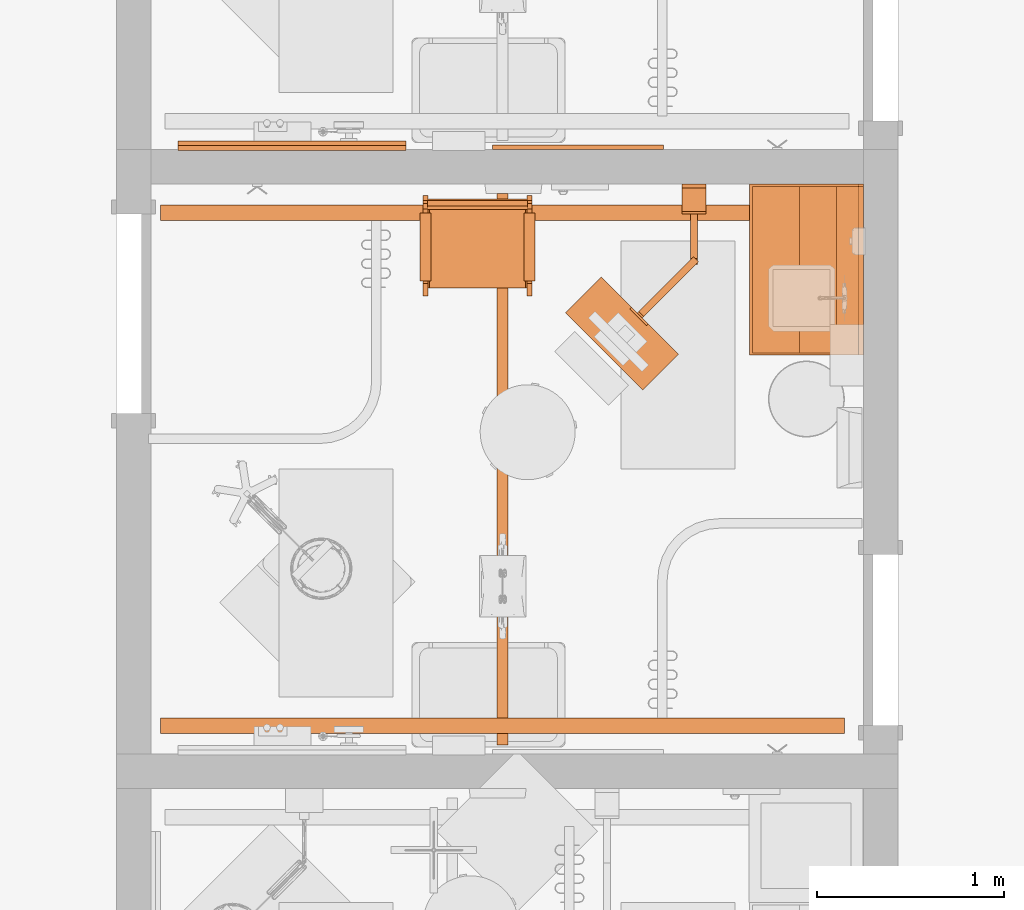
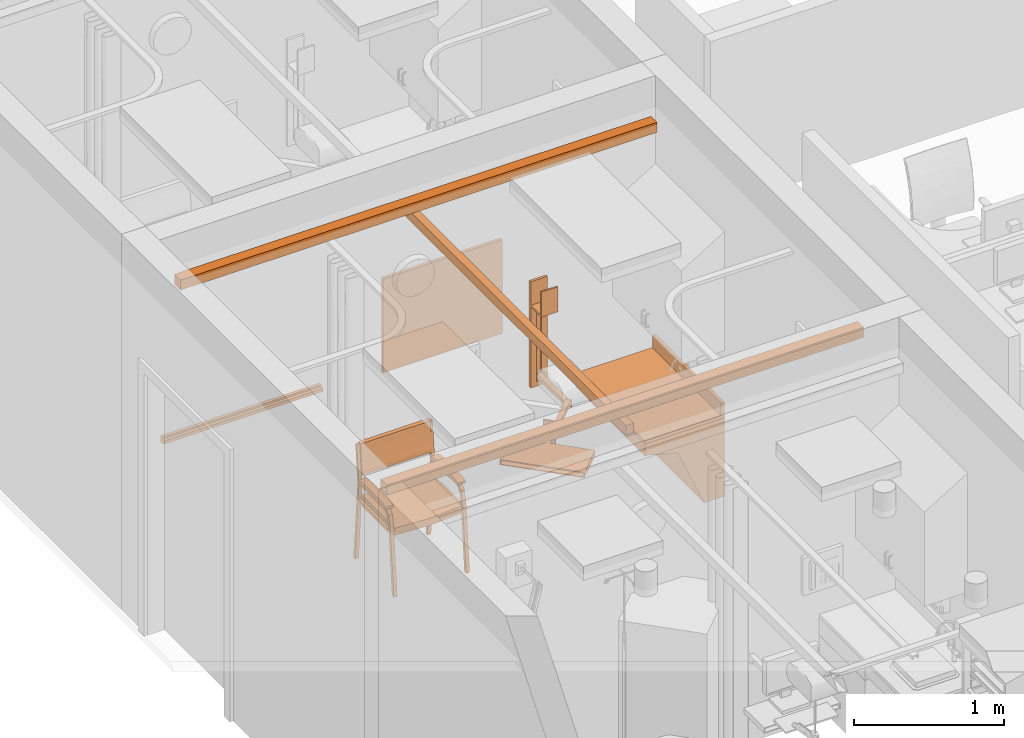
# One storey, part 23 of 142: 7 proxies.
"""IFC2X3 building model written with IfcOpenShell, lengths in feet."""

from ifc_helpers import new_model, entity, si_unit, converted_unit, derived_unit, direction, frame, frame_2d, origin, origin_2d_with_axis, place, context, subcontext, project, spatial, polyline, circle_curve, parameter, trimmed, segment, composite_curve, rectangle, circle, outline, extrude, source, transform, mapped, type_object, type_shapes, element, save


model = new_model("IFC2X3")

# Units and contexts
model_context = context("Model", 3, precision=0.0001, world=origin(), true_north=direction((6.12303176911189e-17, 1.0)))
body_context = subcontext(model_context, "Body", "Model", "MODEL_VIEW")
ifc_project = project(units=[converted_unit("LENGTHUNIT", "FOOT", entity("IfcRatioMeasure", 0.3048), si_unit("LENGTHUNIT", "METRE"), dimensions=[1, 0, 0, 0, 0, 0, 0]), converted_unit("AREAUNIT", "SQUARE FOOT", entity("IfcRatioMeasure", 0.09290304), si_unit("AREAUNIT", "SQUARE_METRE"), dimensions=[2, 0, 0, 0, 0, 0, 0]), converted_unit("VOLUMEUNIT", "CUBIC FOOT", entity("IfcRatioMeasure", 0.028316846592), si_unit("VOLUMEUNIT", "CUBIC_METRE"), dimensions=[3, 0, 0, 0, 0, 0, 0]), converted_unit("PLANEANGLEUNIT", "DEGREE", entity("IfcRatioMeasure", 0.0174532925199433), si_unit("PLANEANGLEUNIT", "RADIAN"), dimensions=[0, 0, 0, 0, 0, 0, 0]), si_unit("MASSUNIT", "GRAM", prefix="KILO"), derived_unit("MASSDENSITYUNIT", [(si_unit("MASSUNIT", "GRAM", prefix="KILO"), 1), (si_unit("LENGTHUNIT", "METRE"), -3)]), si_unit("TIMEUNIT", "SECOND"), si_unit("FREQUENCYUNIT", "HERTZ"), si_unit("THERMODYNAMICTEMPERATUREUNIT", "DEGREE_CELSIUS"), derived_unit("THERMALTRANSMITTANCEUNIT", [(si_unit("MASSUNIT", "GRAM", prefix="KILO"), 1), (si_unit("THERMODYNAMICTEMPERATUREUNIT", "KELVIN"), -1), (si_unit("TIMEUNIT", "SECOND"), -3)]), derived_unit("VOLUMETRICFLOWRATEUNIT", [(si_unit("LENGTHUNIT", "METRE"), 3), (si_unit("TIMEUNIT", "SECOND"), -1)]), si_unit("ELECTRICCURRENTUNIT", "AMPERE"), si_unit("ELECTRICVOLTAGEUNIT", "VOLT"), si_unit("POWERUNIT", "WATT"), si_unit("FORCEUNIT", "NEWTON"), si_unit("ILLUMINANCEUNIT", "LUX"), si_unit("LUMINOUSFLUXUNIT", "LUMEN"), si_unit("LUMINOUSINTENSITYUNIT", "CANDELA"), derived_unit("USERDEFINED", [(si_unit("MASSUNIT", "GRAM", prefix="KILO"), -1), (si_unit("LENGTHUNIT", "METRE"), -2), (si_unit("TIMEUNIT", "SECOND"), 3), (si_unit("LUMINOUSFLUXUNIT", "LUMEN"), 1)]), derived_unit("LINEARVELOCITYUNIT", [(si_unit("LENGTHUNIT", "METRE"), 1), (si_unit("TIMEUNIT", "SECOND"), -1)]), si_unit("PRESSUREUNIT", "PASCAL"), derived_unit("USERDEFINED", [(si_unit("LENGTHUNIT", "METRE"), -2), (si_unit("MASSUNIT", "GRAM", prefix="KILO"), 1), (si_unit("TIMEUNIT", "SECOND"), -2)])], contexts=[model_context])

# Site, building, storey, space
site_placement = place(None, origin())
site = spatial("IfcSite", under=ifc_project, at=site_placement, Name="Default", CompositionType="ELEMENT")
building_placement = place(site_placement, origin())
building = spatial("IfcBuilding", under=site, at=building_placement, Name="OUTPATIENT / PACT CLINIC (Ch. 265)", CompositionType="ELEMENT")
storey_placement = place(building_placement, origin())
storey = spatial("IfcBuildingStorey", under=building, at=storey_placement, Name="LEVEL 1", CompositionType="ELEMENT", Elevation=0.0)
space_1_placement = place(storey_placement, origin())
space_1 = spatial("IfcSpace", under=storey, at=space_1_placement, Name="EXPA01", CompositionType="ELEMENT", InteriorOrExteriorSpace="INTERNAL")

# Proxies
building_element_proxy_type_1 = type_object("IfcBuildingElementProxyType", Name="A1203 Lift System, Overhead, Bariatric", PredefinedType="NOTDEFINED")
shared_shape_1 = source(origin(), body_context, "Body", "SweptSolid", [
    extrude(rectangle(XDim=9.66757011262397, YDim=0.190288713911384, at=frame_2d((0.0, 6.93889390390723e-18), x_axis=(1.0, 0.0))), frame((0.244358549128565, 0.0, 8.63910761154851), z_axis=(0.0, 0.0, 1.0), x_axis=(-1.0, 0.0, 0.0)), (0.0, 0.0, 1.0), 0.249343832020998),
    extrude(rectangle(XDim=11.9998599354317, YDim=0.267060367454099, at=frame_2d((0.0, 4.44089209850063e-16), x_axis=(1.0, 0.0))), frame((4.74481027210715, 0.0, 8.99015748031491), z_axis=(0.0, 0.0, 1.0), x_axis=(0.0, 1.0, 0.0)), (0.0, 0.0, 1.0), 0.265748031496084),
    extrude(rectangle(XDim=11.9998599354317, YDim=0.267060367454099, at=frame_2d((0.0, 4.44089209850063e-16), x_axis=(1.0, 0.0))), frame((-4.25609317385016, 0.0, 8.99015748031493), z_axis=(0.0, 0.0, 1.0), x_axis=(0.0, 1.0, 0.0)), (0.0, 0.0, 1.0), 0.265748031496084),
])
type_shapes(building_element_proxy_type_1, [shared_shape_1])
proxy_1_placement = place(space_1_placement, frame((397.133697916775, -926.686162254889, 0.0), z_axis=(0.0, 0.0, 1.0), x_axis=(0.0, 1.0, 0.0)))
element("IfcBuildingElementProxy", 1, at=proxy_1_placement, inside=space_1, type_object=building_element_proxy_type_1, Name="A1203 Lift System, Overhead, Bariatric (Traverse):A1203 Lift System, Overhead, Bariatric", ObjectType="A1203 Lift System, Overhead, Bariatric", context=body_context, shape_type="MappedRepresentation", body=[
    mapped(shared_shape_1, transform((0.0, 0.0, 0.0), scale=1.0)),
])
building_element_proxy_type_2 = type_object("IfcBuildingElementProxyType", Name="M1803 - Workstation, Computer, Wall Mounted", PredefinedType="NOTDEFINED")
shared_shape_2 = source(origin(), body_context, "Body", "SweptSolid", [
    extrude(circle(Radius=0.104166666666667, at=frame_2d((1.0547118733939e-15, 3.336446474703e-16), x_axis=(1.0, 0.0))), frame((-0.0810226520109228, -1.34888430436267, 0.333333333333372), z_axis=(0.707106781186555, -0.70710678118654, 0.0), x_axis=(0.0, 0.0, 1.0)), (0.0, 0.0, 1.0), 0.125000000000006),
    extrude(outline(composite_curve([segment(polyline([(0.0520833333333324, -0.592708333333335), (0.0520833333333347, 0.644791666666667)]), True, "CONTINUOUS"), segment(polyline([(0.0520833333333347, 0.644791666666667), (-0.0520833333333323, 0.644791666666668)]), True, "CONTINUOUS"), segment(polyline([(-0.0520833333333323, 0.644791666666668), (-0.0520833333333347, -0.696875)]), True, "CONTINUOUS"), segment(trimmed(circle_curve(frame_2d((0.0520833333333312, -0.696875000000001), x_axis=(1.0, 0.0)), 0.104166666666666), [parameter(89.9999999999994)], [parameter(180.0)], True, "PARAMETER"), False, "CONTINUOUS")], self_intersect=False)), frame((-0.0624999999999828, -0.711458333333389, 0.281250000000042), z_axis=(-1.0, 0.0, 0.0), x_axis=(0.0, 0.0, 1.0)), (0.0, 0.0, -1.0), 0.125000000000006),
    extrude(outline(composite_curve([segment(polyline([(0.0520833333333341, -0.651041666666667), (0.0520833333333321, 0.598958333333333)]), True, "CONTINUOUS"), segment(polyline([(0.0520833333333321, 0.598958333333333), (-0.0520833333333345, 0.598958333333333)]), True, "CONTINUOUS"), segment(polyline([(-0.0520833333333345, 0.598958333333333), (-0.0520833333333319, -0.546875)]), True, "CONTINUOUS"), segment(trimmed(circle_curve(frame_2d((-0.0520833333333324, -0.651041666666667), x_axis=(1.0, 0.0)), 0.104166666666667), [parameter(1.01777749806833e-13)], [parameter(90.0000000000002)], True, "PARAMETER"), False, "CONTINUOUS")], self_intersect=False)), frame((-0.452990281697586, -1.89762862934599, 0.385416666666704), z_axis=(0.707106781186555, -0.70710678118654, 0.0), x_axis=(0.0, 0.0, 1.0)), (0.0, 0.0, -1.0), 0.125000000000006),
    extrude(outline(polyline([(-0.0729166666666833, -0.95833333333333), (0.0729166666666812, -0.95833333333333), (0.0729166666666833, 0.95833333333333), (-0.0729166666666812, 0.95833333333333), (-0.0729166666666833, -0.95833333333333)]), holes=[polyline([(-0.05208333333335, -0.937499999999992), (-0.052083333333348, 0.937499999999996), (0.0520833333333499, 0.937499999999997), (0.0520833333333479, -0.937499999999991), (-0.05208333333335, -0.937499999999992)])]), frame((-1.5747857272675, -2.93103572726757, 0.0729166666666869), z_axis=(0.707106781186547, 0.707106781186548, 0.0), x_axis=(0.0, 0.0, -1.0)), (0.0, 0.0, 1.0), 0.883333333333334),
    extrude(rectangle(XDim=0.0666666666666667, YDim=0.416666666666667, at=origin_2d_with_axis()), frame((0.0, -0.0333333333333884, 0.0), z_axis=(0.0, 0.0, 1.0), x_axis=(0.0, 1.0, 0.0)), (0.0, 0.0, 1.0), 0.11949518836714),
    extrude(outline(polyline([(-0.208333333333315, -0.0270833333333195), (-0.0625000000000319, -0.0270833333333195), (-0.0625000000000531, 0.014583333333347), (0.0625000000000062, 0.014583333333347), (0.0625000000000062, -0.0270833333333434), (0.208333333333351, -0.0270833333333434), (0.208333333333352, 0.0395833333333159), (-0.208333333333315, 0.0395833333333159), (-0.208333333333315, -0.0270833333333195)])), frame((0.0, -0.0395833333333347, 0.119495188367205)), (0.0, 0.0, 1.0), 2.0471714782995),
    extrude(outline(polyline([(-0.194444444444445, 0.125), (0.430555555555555, 0.125), (0.430555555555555, 0.166666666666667), (-0.236111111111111, 0.166666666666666), (-0.236111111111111, -0.291666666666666), (-0.194444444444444, -0.291666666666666), (-0.194444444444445, 0.125)])), frame((-0.208333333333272, -0.358333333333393, 2.40277777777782), z_axis=(1.0, 0.0, 0.0), x_axis=(0.0, 0.0, 1.0)), (0.0, 0.0, 1.0), 0.416666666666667),
    extrude(rectangle(XDim=0.0416666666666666, YDim=0.416666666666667, at=frame_2d((4.16333634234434e-17, -5.55111512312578e-17), x_axis=(1.0, 0.0))), frame((-0.964906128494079, -2.3211561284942, 0.503601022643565), z_axis=(0.0, 0.0, 1.0), x_axis=(0.707106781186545, 0.70710678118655, 0.0)), (0.0, 0.0, 1.0), 0.267232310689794),
    extrude(rectangle(XDim=0.125000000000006, YDim=0.0416666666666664, at=frame_2d((-1.94289029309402e-16, 1.16226472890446e-16), x_axis=(1.0, 0.0))), frame((-0.935443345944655, -2.29169334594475, 0.0), z_axis=(0.0, 0.0, 1.0), x_axis=(-0.707106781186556, 0.70710678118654, 0.0)), (0.0, 0.0, 1.0), 0.666666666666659),
    extrude(rectangle(XDim=0.0666666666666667, YDim=0.416666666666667, at=origin_2d_with_axis()), frame((0.0, -0.0333333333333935, 2.16666666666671), z_axis=(0.0, 0.0, 1.0), x_axis=(0.0, 1.0, 0.0)), (0.0, 0.0, 1.0), 0.666666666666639),
])
type_shapes(building_element_proxy_type_2, [shared_shape_2])
proxy_2_placement = place(space_1_placement, frame((400.489351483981, -921.441351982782, 2.83333333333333)))
element("IfcBuildingElementProxy", 2, at=proxy_2_placement, inside=space_1, type_object=building_element_proxy_type_2, Name="M1803 - Workstation, Computer, Wall Mounted1:M1803 - Workstation, Computer, Wall Mounted", ObjectType="M1803 - Workstation, Computer, Wall Mounted", context=body_context, shape_type="MappedRepresentation", body=[
    mapped(shared_shape_2, transform((0.0, 0.0, 0.0), scale=1.0)),
])

# Space
space_2_placement = place(storey_placement, origin())
space_2 = spatial("IfcSpace", under=storey, at=space_2_placement, Name="EXPA01", CompositionType="ELEMENT", InteriorOrExteriorSpace="INTERNAL")

# Proxies
building_element_proxy_type_3 = type_object("IfcBuildingElementProxyType", Name="F3025 - Board, Bulletin, Wood Framed", PredefinedType="NOTDEFINED")
shared_shape_3 = source(origin(), body_context, "Body", "SweptSolid", [
    extrude(rectangle(XDim=0.0416666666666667, YDim=2.74999999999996, at=origin_2d_with_axis()), frame((0.0, -0.020833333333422, 0.124999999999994), z_axis=(0.0, 0.0, 1.0), x_axis=(0.0, 1.0, 0.0)), (0.0, 0.0, 1.0), 2.25000000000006),
    extrude(outline(polyline([(-1.49999999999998, -1.25), (1.49999999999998, -1.25), (1.49999999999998, 1.25), (-1.49999999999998, 1.25), (-1.49999999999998, -1.25)]), holes=[polyline([(-1.37499999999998, -1.125), (-1.37499999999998, 1.12500000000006), (1.37499999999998, 1.12500000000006), (1.37499999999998, -1.125), (-1.37499999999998, -1.125)])]), frame((0.0, -0.0833333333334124, 1.25), z_axis=(0.0, 1.0, 0.0), x_axis=(-1.0, 0.0, 0.0)), (0.0, 0.0, 1.0), 0.0833333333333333),
])
type_shapes(building_element_proxy_type_3, [shared_shape_3])
proxy_3_placement = place(space_2_placement, frame((398.452893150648, -920.837185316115, 4.0), z_axis=(0.0, 0.0, 1.0), x_axis=(-1.0, 0.0, 0.0)))
element("IfcBuildingElementProxy", 3, at=proxy_3_placement, inside=space_2, type_object=building_element_proxy_type_3, Name="F3025 - Board, Bulletin, Wood Framed1:F3025 - Board, Bulletin, Wood Framed", ObjectType="F3025 - Board, Bulletin, Wood Framed", context=body_context, shape_type="MappedRepresentation", body=[
    mapped(shared_shape_3, transform((0.0, 0.0, 0.0), scale=1.0)),
])
building_element_proxy_type_4 = type_object("IfcBuildingElementProxyType", Name="F0205 - Chair, Side With Arms", PredefinedType="NOTDEFINED")
shared_shape_4 = source(origin(), body_context, "Body", "SweptSolid", [
    extrude(outline(polyline([(-0.104007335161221, -0.374369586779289), (-0.027711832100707, -0.374369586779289), (-0.0197350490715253, -0.338348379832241), (0.00592434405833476, -0.182113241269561), (0.0162560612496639, -0.135457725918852), (0.0457826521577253, -0.00212284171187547), (0.0856087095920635, 0.177721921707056), (0.112798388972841, 0.276572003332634), (0.120257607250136, 0.307674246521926), (0.129202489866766, 0.415216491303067), (0.045581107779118, 0.433734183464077), (0.0167028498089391, 0.395704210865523), (-0.0364083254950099, 0.222671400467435), (-0.125070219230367, -0.177704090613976), (-0.13682888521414, -0.27538652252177), (-0.128352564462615, -0.36942248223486), (-0.104007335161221, -0.374369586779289)])), frame((-0.891159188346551, -0.878769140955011, 2.73061112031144), z_axis=(0.0, 1.0, 0.0), x_axis=(0.991475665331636, 0.0, -0.130291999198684)), (0.0, 0.0, 1.0), 1.75919993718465),
    extrude(outline(polyline([(0.0907668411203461, -0.842703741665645), (0.261538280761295, -0.842703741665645), (0.265730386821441, -0.773999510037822), (0.127479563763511, 0.0287496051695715), (-0.0923338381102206, 0.813085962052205), (-0.125373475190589, 0.873420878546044), (-0.279635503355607, 0.800086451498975), (-0.270660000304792, 0.752608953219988), (-0.0560029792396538, -0.0126173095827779), (0.0784907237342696, -0.795927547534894), (0.0907668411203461, -0.842703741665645)])), frame((-0.90556950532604, 0.000822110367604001, 1.62079321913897), z_axis=(1.0, 0.0, 0.0), x_axis=(0.0, -0.219936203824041, -0.975514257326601)), (0.0, 0.0, 1.0), 1.47211210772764),
    extrude(outline(polyline([(-0.552031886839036, -0.234422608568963), (-0.484734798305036, -0.234422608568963), (-0.233837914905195, -0.160903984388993), (0.324339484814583, 0.0422559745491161), (0.453697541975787, 0.101150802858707), (0.564536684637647, 0.176717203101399), (0.51204038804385, 0.250193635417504), (0.420212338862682, 0.216770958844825), (0.254858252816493, 0.145732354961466), (-0.246233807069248, -0.0366502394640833), (-0.436544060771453, -0.0986810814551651), (-0.576302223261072, -0.167740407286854), (-0.552031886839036, -0.234422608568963)])), frame((-0.1510824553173, -1.00916916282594, 2.22827697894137), z_axis=(0.0, 1.0, 0.0), x_axis=(0.939692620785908, 0.0, 0.34202014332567)), (0.0, 0.0, 1.0), 0.198199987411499),
    extrude(outline(polyline([(-0.525375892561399, -0.221085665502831), (-0.458078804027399, -0.221085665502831), (-0.207181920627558, -0.147567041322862), (0.350995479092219, 0.0555929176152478), (0.480353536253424, 0.114487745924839), (0.591192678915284, 0.190054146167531), (0.551062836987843, 0.246221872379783), (0.114629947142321, 0.0873732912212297), (0.281514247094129, 0.159069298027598), (-0.219577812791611, -0.0233132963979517), (-0.409888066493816, -0.0853441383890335), (-0.549646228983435, -0.154403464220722), (-0.525375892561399, -0.221085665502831)])), frame((-0.180692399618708, 0.814330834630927, 2.23169271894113), z_axis=(0.0, 1.0, 0.0), x_axis=(0.939692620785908, 0.0, 0.34202014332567)), (0.0, 0.0, 1.0), 0.196499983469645),
    extrude(outline(polyline([(0.0166377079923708, -0.666422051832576), (0.099971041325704, -0.666422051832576), (-0.0172324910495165, 0.673220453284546), (-0.0993762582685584, 0.659623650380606), (0.0166377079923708, -0.666422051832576)])), frame((-0.182442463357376, -0.954369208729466, 1.61480726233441), z_axis=(0.0, 1.0, 0.0), x_axis=(0.0871557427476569, 0.0, -0.996194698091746)), (0.0, 0.0, 1.0), 0.0833333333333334),
    extrude(outline(polyline([(0.0166377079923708, -0.666422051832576), (0.099971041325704, -0.666422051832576), (-0.0172324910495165, 0.673220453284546), (-0.0993762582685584, 0.659623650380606), (0.0166377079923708, -0.666422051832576)])), frame((-0.182442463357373, 0.867430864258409, 1.61480726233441), z_axis=(0.0, 1.0, 0.0), x_axis=(0.0871557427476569, 0.0, -0.996194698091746)), (0.0, 0.0, 1.0), 0.0833333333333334),
    extrude(outline(polyline([(0.811855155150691, -1.61770011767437), (0.895188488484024, -1.61770011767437), (0.71143329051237, 0.489199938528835), (0.806416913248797, 1.46713632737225), (0.751033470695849, 1.46713632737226), (0.656855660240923, 0.571094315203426), (-0.516612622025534, 0.571094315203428), (-0.653571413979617, 0.441277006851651), (-0.728375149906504, 0.0391907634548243), (-0.871611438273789, -1.61770011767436), (-0.791571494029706, -1.61770011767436), (-0.646611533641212, 0.0391998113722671), (-0.578172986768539, 0.407071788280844), (-0.496044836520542, 0.48919993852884), (0.649788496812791, 0.489199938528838), (0.811855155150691, -1.61770011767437)])), frame((-0.163768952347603, -0.954369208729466, 1.61770011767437), z_axis=(0.0, 1.0, 0.0), x_axis=(-1.0, 0.0, 0.0)), (0.0, 0.0, 1.0), 0.0885709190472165),
    extrude(outline(polyline([(0.811855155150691, -1.61770011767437), (0.895188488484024, -1.61770011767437), (0.71143329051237, 0.489199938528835), (0.806416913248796, 1.46713632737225), (0.751033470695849, 1.46713632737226), (0.656855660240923, 0.571094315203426), (-0.516612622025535, 0.571094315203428), (-0.653571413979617, 0.441277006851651), (-0.728375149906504, 0.0391907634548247), (-0.871611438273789, -1.61770011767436), (-0.791571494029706, -1.61770011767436), (-0.646611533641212, 0.0391998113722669), (-0.578172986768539, 0.407071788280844), (-0.496044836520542, 0.48919993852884), (0.649788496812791, 0.489199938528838), (0.811855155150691, -1.61770011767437)])), frame((-0.1637689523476, 0.867430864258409, 1.61770011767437), z_axis=(0.0, 1.0, 0.0), x_axis=(-1.0, 0.0, 0.0)), (0.0, 0.0, 1.0), 0.0885709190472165),
])
type_shapes(building_element_proxy_type_4, [shared_shape_4])
proxy_4_placement = place(space_1_placement, frame((396.692476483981, -922.696560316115, 0.0), z_axis=(0.0, 0.0, 1.0), x_axis=(0.0, -1.0, 0.0)))
element("IfcBuildingElementProxy", 4, at=proxy_4_placement, inside=space_1, type_object=building_element_proxy_type_4, Name="F0205 - Chair, Side With Arms:F0205 - Chair, Side With Arms", ObjectType="F0205 - Chair, Side With Arms", context=body_context, shape_type="MappedRepresentation", body=[
    mapped(shared_shape_4, transform((0.0, 0.0, 0.0), scale=1.0)),
])
building_element_proxy_type_5 = type_object("IfcBuildingElementProxyType", Name="CT020 - Countertop, Solid Surface - No Opening (1)", PredefinedType="NOTDEFINED")
shared_shape_5 = source(origin(), body_context, "Body", "SweptSolid", [
    extrude(rectangle(XDim=3.0, YDim=0.083333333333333, at=frame_2d((0.0, -5.55111512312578e-17), x_axis=(1.0, 0.0))), frame((0.0, 0.958333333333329, 0.0833333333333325)), (0.0, 0.0, 1.0), 0.333333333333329),
    extrude(rectangle(XDim=3.0, YDim=2.0, at=origin_2d_with_axis()), origin(), (0.0, 0.0, 1.0), 0.0833333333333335),
])
type_shapes(building_element_proxy_type_5, [shared_shape_5])
proxy_5_placement = place(space_1_placement, frame((402.463309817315, -922.941351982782, 2.70833333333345), z_axis=(0.0, 0.0, 1.0), x_axis=(0.0, -1.0, 0.0)))
element("IfcBuildingElementProxy", 5, at=proxy_5_placement, inside=space_1, type_object=building_element_proxy_type_5, Name="CT020 - Countertop, Solid Surface - No Opening (1):CT020 - Countertop, Solid Surface - No Opening (1)", ObjectType="CT020 - Countertop, Solid Surface - No Opening (1)", context=body_context, shape_type="MappedRepresentation", body=[
    mapped(shared_shape_5, transform((0.0, 0.0, 0.0), scale=1.0)),
])
building_element_proxy_type_6 = type_object("IfcBuildingElementProxyType", Name="A1132 - Rail, Accessory Mounting", PredefinedType="NOTDEFINED")
shared_shape_6 = source(origin(), body_context, "Body", "SweptSolid", [
    extrude(outline(polyline([(0.0416666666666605, 0.0), (0.0833333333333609, 0.0), (0.083333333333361, 0.0833333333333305), (-0.0833333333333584, 0.0833333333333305), (-0.0833333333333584, 0.0), (-0.0416666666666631, 0.0), (-0.0416666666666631, -0.0833333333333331), (0.0416666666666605, -0.0833333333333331), (0.0416666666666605, 0.0)])), frame((-2.0, -0.0833333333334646, 0.0833333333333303), z_axis=(1.0, 0.0, 0.0), x_axis=(0.0, 0.0, 1.0)), (0.0, 0.0, 1.0), 4.0),
])
type_shapes(building_element_proxy_type_6, [shared_shape_6])
proxy_6_placement = place(space_2_placement, frame((393.437268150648, -920.8469300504, 4.0), z_axis=(0.0, 0.0, 1.0), x_axis=(-1.0, 0.0, 0.0)))
element("IfcBuildingElementProxy", 6, at=proxy_6_placement, inside=space_2, type_object=building_element_proxy_type_6, Name="A1132 - Rail, Accessory Mounting:A1132 - Rail, Accessory Mounting", ObjectType="A1132 - Rail, Accessory Mounting", context=body_context, shape_type="MappedRepresentation", body=[
    mapped(shared_shape_6, transform((0.0, 0.0, 0.0), scale=1.0)),
])
building_element_proxy_type_7 = type_object("IfcBuildingElementProxyType", Name="24\"H x 24\"D x 36\"W", PredefinedType="NOTDEFINED")
shared_shape_7 = source(origin(), body_context, "Body", "SweptSolid", [
    extrude(outline(polyline([(-0.750382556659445, 0.0187614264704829), (0.944711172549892, 0.0187614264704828), (1.14381332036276, 0.488200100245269), (1.08627459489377, 0.51260389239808), (0.903330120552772, 0.081261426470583), (-0.774516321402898, 0.0812614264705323), (-1.30874051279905, -0.586799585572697), (-1.24448981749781, -0.614050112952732), (-0.750382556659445, 0.0187614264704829)])), frame((-1.45833333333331, -1.19293570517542, 1.67489402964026), z_axis=(1.0, 0.0, 0.0), x_axis=(0.0, 0.390460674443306, -0.920619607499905)), (0.0, 0.0, 1.0), 2.91666666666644),
    extrude(outline(polyline([(-1.24925608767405, -0.929380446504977), (0.834077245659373, -0.929380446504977), (0.834077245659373, 1.01791116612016), (0.519077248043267, 1.01791116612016), (0.311280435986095, 0.242403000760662), (-1.24925608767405, -0.41946443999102), (-1.24925608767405, -0.929380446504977)])), frame((-1.49999999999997, -1.2262554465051, 2.06175608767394), z_axis=(1.0, 0.0, 0.0), x_axis=(0.0, 0.0, 1.0)), (0.0, 0.0, 1.0), 0.0416666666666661),
    extrude(rectangle(XDim=3.0, YDim=0.0527083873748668, at=frame_2d((0.0, -2.22044604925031e-16), x_axis=(1.0, 0.0))), frame((0.0, -2.27052080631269, 2.58083333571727), z_axis=(0.0, 0.0, 1.0), x_axis=(-1.0, 0.0, 0.0)), (0.0, 0.0, 1.0), 0.314999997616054),
    extrude(outline(polyline([(-1.24925608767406, -0.929380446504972), (0.834077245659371, -0.929380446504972), (0.834077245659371, 1.01791116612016), (0.519077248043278, 1.01791116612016), (0.311280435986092, 0.24240300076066), (-1.24925608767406, -0.419464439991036), (-1.24925608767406, -0.929380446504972)])), frame((1.45833333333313, -1.22625544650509, 2.06175608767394), z_axis=(1.0, 0.0, 0.0), x_axis=(0.0, 0.0, 1.0)), (0.0, 0.0, 1.0), 0.0416666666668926),
])
type_shapes(building_element_proxy_type_7, [shared_shape_7])
proxy_7_placement = place(space_1_placement, frame((403.760184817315, -922.941351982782, -0.187499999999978), z_axis=(0.0, 0.0, 1.0), x_axis=(0.0, -1.0, 0.0)))
element("IfcBuildingElementProxy", 7, at=proxy_7_placement, inside=space_1, type_object=building_element_proxy_type_7, Name="Z1018 - Cabinet, ADA Sink Support:24\"H x 24\"D x 36\"W", ObjectType="24\"H x 24\"D x 36\"W", context=body_context, shape_type="MappedRepresentation", body=[
    mapped(shared_shape_7, transform((0.0, 0.0, 0.0), scale=1.0)),
])

save(model, "model.ifc")
